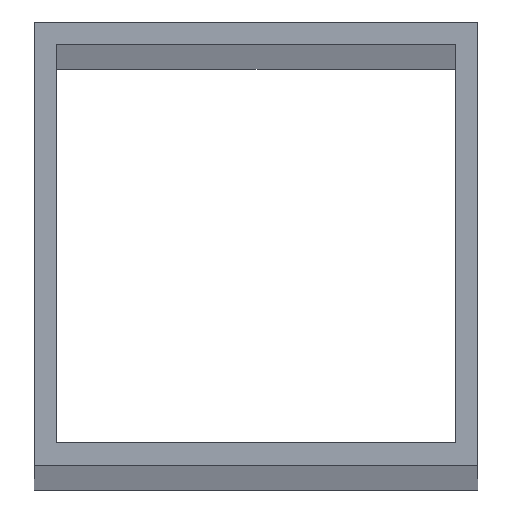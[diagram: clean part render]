
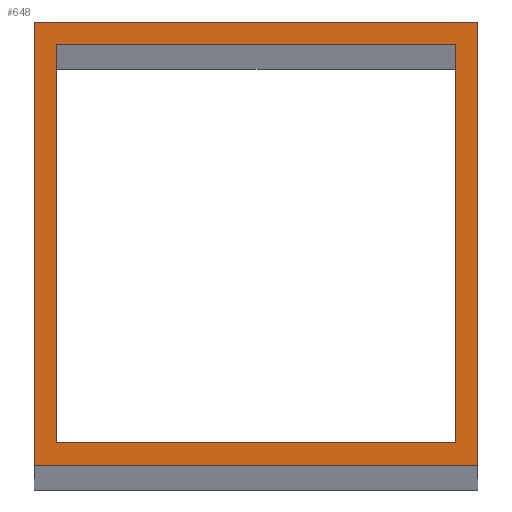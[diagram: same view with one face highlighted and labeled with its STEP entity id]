
A CAD part, top view. The second image highlights one B-rep face of the part: STEP entity #648.
In plain terms, the highlighted planar face has unit normal (0, 0, 1).
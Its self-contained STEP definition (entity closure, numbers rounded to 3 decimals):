
#24 = VERTEX_POINT('',#25);
#25 = CARTESIAN_POINT('',(-40.,-40.,2578.59));
#32 = PLANE('',#33);
#33 = AXIS2_PLACEMENT_3D('',#34,#35,#36);
#34 = CARTESIAN_POINT('',(-40.,-40.,0.));
#35 = DIRECTION('',(0.,1.,0.));
#36 = DIRECTION('',(1.,0.,0.));
#44 = PLANE('',#45);
#45 = AXIS2_PLACEMENT_3D('',#46,#47,#48);
#46 = CARTESIAN_POINT('',(-40.,40.,0.));
#47 = DIRECTION('',(1.,0.,-0.));
#48 = DIRECTION('',(0.,-1.,0.));
#56 = EDGE_CURVE('',#24,#57,#59,.T.);
#57 = VERTEX_POINT('',#58);
#58 = CARTESIAN_POINT('',(40.,-40.,2578.59));
#59 = SURFACE_CURVE('',#60,(#64,#71),.PCURVE_S1.);
#60 = LINE('',#61,#62);
#61 = CARTESIAN_POINT('',(-40.,-40.,2578.59));
#62 = VECTOR('',#63,1.);
#63 = DIRECTION('',(1.,0.,0.));
#64 = PCURVE('',#32,#65);
#65 = DEFINITIONAL_REPRESENTATION('',(#66),#70);
#66 = LINE('',#67,#68);
#67 = CARTESIAN_POINT('',(0.,-2578.59));
#68 = VECTOR('',#69,1.);
#69 = DIRECTION('',(1.,0.));
#70 = ( GEOMETRIC_REPRESENTATION_CONTEXT(2) 
PARAMETRIC_REPRESENTATION_CONTEXT() REPRESENTATION_CONTEXT('2D SPACE',''
  ) );
#71 = PCURVE('',#72,#77);
#72 = PLANE('',#73);
#73 = AXIS2_PLACEMENT_3D('',#74,#75,#76);
#74 = CARTESIAN_POINT('',(0.,0.,2578.59));
#75 = DIRECTION('',(0.,0.,1.));
#76 = DIRECTION('',(1.,0.,-0.));
#77 = DEFINITIONAL_REPRESENTATION('',(#78),#82);
#78 = LINE('',#79,#80);
#79 = CARTESIAN_POINT('',(-40.,-40.));
#80 = VECTOR('',#81,1.);
#81 = DIRECTION('',(1.,0.));
#82 = ( GEOMETRIC_REPRESENTATION_CONTEXT(2) 
PARAMETRIC_REPRESENTATION_CONTEXT() REPRESENTATION_CONTEXT('2D SPACE',''
  ) );
#100 = PLANE('',#101);
#101 = AXIS2_PLACEMENT_3D('',#102,#103,#104);
#102 = CARTESIAN_POINT('',(40.,-40.,0.));
#103 = DIRECTION('',(-1.,0.,0.));
#104 = DIRECTION('',(0.,1.,0.));
#142 = EDGE_CURVE('',#57,#143,#145,.T.);
#143 = VERTEX_POINT('',#144);
#144 = CARTESIAN_POINT('',(40.,40.,2578.59));
#145 = SURFACE_CURVE('',#146,(#150,#157),.PCURVE_S1.);
#146 = LINE('',#147,#148);
#147 = CARTESIAN_POINT('',(40.,-40.,2578.59));
#148 = VECTOR('',#149,1.);
#149 = DIRECTION('',(0.,1.,0.));
#150 = PCURVE('',#100,#151);
#151 = DEFINITIONAL_REPRESENTATION('',(#152),#156);
#152 = LINE('',#153,#154);
#153 = CARTESIAN_POINT('',(0.,-2578.59));
#154 = VECTOR('',#155,1.);
#155 = DIRECTION('',(1.,0.));
#156 = ( GEOMETRIC_REPRESENTATION_CONTEXT(2) 
PARAMETRIC_REPRESENTATION_CONTEXT() REPRESENTATION_CONTEXT('2D SPACE',''
  ) );
#157 = PCURVE('',#72,#158);
#158 = DEFINITIONAL_REPRESENTATION('',(#159),#163);
#159 = LINE('',#160,#161);
#160 = CARTESIAN_POINT('',(40.,-40.));
#161 = VECTOR('',#162,1.);
#162 = DIRECTION('',(0.,1.));
#163 = ( GEOMETRIC_REPRESENTATION_CONTEXT(2) 
PARAMETRIC_REPRESENTATION_CONTEXT() REPRESENTATION_CONTEXT('2D SPACE',''
  ) );
#181 = PLANE('',#182);
#182 = AXIS2_PLACEMENT_3D('',#183,#184,#185);
#183 = CARTESIAN_POINT('',(40.,40.,0.));
#184 = DIRECTION('',(0.,-1.,0.));
#185 = DIRECTION('',(-1.,0.,0.));
#218 = EDGE_CURVE('',#143,#219,#221,.T.);
#219 = VERTEX_POINT('',#220);
#220 = CARTESIAN_POINT('',(-40.,40.,2578.59));
#221 = SURFACE_CURVE('',#222,(#226,#233),.PCURVE_S1.);
#222 = LINE('',#223,#224);
#223 = CARTESIAN_POINT('',(40.,40.,2578.59));
#224 = VECTOR('',#225,1.);
#225 = DIRECTION('',(-1.,0.,0.));
#226 = PCURVE('',#181,#227);
#227 = DEFINITIONAL_REPRESENTATION('',(#228),#232);
#228 = LINE('',#229,#230);
#229 = CARTESIAN_POINT('',(0.,-2578.59));
#230 = VECTOR('',#231,1.);
#231 = DIRECTION('',(1.,0.));
#232 = ( GEOMETRIC_REPRESENTATION_CONTEXT(2) 
PARAMETRIC_REPRESENTATION_CONTEXT() REPRESENTATION_CONTEXT('2D SPACE',''
  ) );
#233 = PCURVE('',#72,#234);
#234 = DEFINITIONAL_REPRESENTATION('',(#235),#239);
#235 = LINE('',#236,#237);
#236 = CARTESIAN_POINT('',(40.,40.));
#237 = VECTOR('',#238,1.);
#238 = DIRECTION('',(-1.,0.));
#239 = ( GEOMETRIC_REPRESENTATION_CONTEXT(2) 
PARAMETRIC_REPRESENTATION_CONTEXT() REPRESENTATION_CONTEXT('2D SPACE',''
  ) );
#289 = EDGE_CURVE('',#219,#24,#290,.T.);
#290 = SURFACE_CURVE('',#291,(#295,#302),.PCURVE_S1.);
#291 = LINE('',#292,#293);
#292 = CARTESIAN_POINT('',(-40.,40.,2578.59));
#293 = VECTOR('',#294,1.);
#294 = DIRECTION('',(0.,-1.,0.));
#295 = PCURVE('',#44,#296);
#296 = DEFINITIONAL_REPRESENTATION('',(#297),#301);
#297 = LINE('',#298,#299);
#298 = CARTESIAN_POINT('',(0.,-2578.59));
#299 = VECTOR('',#300,1.);
#300 = DIRECTION('',(1.,0.));
#301 = ( GEOMETRIC_REPRESENTATION_CONTEXT(2) 
PARAMETRIC_REPRESENTATION_CONTEXT() REPRESENTATION_CONTEXT('2D SPACE',''
  ) );
#302 = PCURVE('',#72,#303);
#303 = DEFINITIONAL_REPRESENTATION('',(#304),#308);
#304 = LINE('',#305,#306);
#305 = CARTESIAN_POINT('',(-40.,40.));
#306 = VECTOR('',#307,1.);
#307 = DIRECTION('',(0.,-1.));
#308 = ( GEOMETRIC_REPRESENTATION_CONTEXT(2) 
PARAMETRIC_REPRESENTATION_CONTEXT() REPRESENTATION_CONTEXT('2D SPACE',''
  ) );
#338 = VERTEX_POINT('',#339);
#339 = CARTESIAN_POINT('',(-36.,-36.,2578.59));
#346 = PLANE('',#347);
#347 = AXIS2_PLACEMENT_3D('',#348,#349,#350);
#348 = CARTESIAN_POINT('',(-36.,-36.,0.));
#349 = DIRECTION('',(0.,1.,0.));
#350 = DIRECTION('',(1.,0.,0.));
#358 = PLANE('',#359);
#359 = AXIS2_PLACEMENT_3D('',#360,#361,#362);
#360 = CARTESIAN_POINT('',(-36.,36.,0.));
#361 = DIRECTION('',(1.,0.,-0.));
#362 = DIRECTION('',(0.,-1.,0.));
#370 = EDGE_CURVE('',#338,#371,#373,.T.);
#371 = VERTEX_POINT('',#372);
#372 = CARTESIAN_POINT('',(36.,-36.,2578.59));
#373 = SURFACE_CURVE('',#374,(#378,#385),.PCURVE_S1.);
#374 = LINE('',#375,#376);
#375 = CARTESIAN_POINT('',(-36.,-36.,2578.59));
#376 = VECTOR('',#377,1.);
#377 = DIRECTION('',(1.,0.,0.));
#378 = PCURVE('',#346,#379);
#379 = DEFINITIONAL_REPRESENTATION('',(#380),#384);
#380 = LINE('',#381,#382);
#381 = CARTESIAN_POINT('',(0.,-2578.59));
#382 = VECTOR('',#383,1.);
#383 = DIRECTION('',(1.,0.));
#384 = ( GEOMETRIC_REPRESENTATION_CONTEXT(2) 
PARAMETRIC_REPRESENTATION_CONTEXT() REPRESENTATION_CONTEXT('2D SPACE',''
  ) );
#385 = PCURVE('',#72,#386);
#386 = DEFINITIONAL_REPRESENTATION('',(#387),#391);
#387 = LINE('',#388,#389);
#388 = CARTESIAN_POINT('',(-36.,-36.));
#389 = VECTOR('',#390,1.);
#390 = DIRECTION('',(1.,0.));
#391 = ( GEOMETRIC_REPRESENTATION_CONTEXT(2) 
PARAMETRIC_REPRESENTATION_CONTEXT() REPRESENTATION_CONTEXT('2D SPACE',''
  ) );
#409 = PLANE('',#410);
#410 = AXIS2_PLACEMENT_3D('',#411,#412,#413);
#411 = CARTESIAN_POINT('',(36.,-36.,0.));
#412 = DIRECTION('',(-1.,0.,0.));
#413 = DIRECTION('',(0.,1.,0.));
#446 = EDGE_CURVE('',#371,#447,#449,.T.);
#447 = VERTEX_POINT('',#448);
#448 = CARTESIAN_POINT('',(36.,36.,2578.59));
#449 = SURFACE_CURVE('',#450,(#454,#461),.PCURVE_S1.);
#450 = LINE('',#451,#452);
#451 = CARTESIAN_POINT('',(36.,-36.,2578.59));
#452 = VECTOR('',#453,1.);
#453 = DIRECTION('',(0.,1.,0.));
#454 = PCURVE('',#409,#455);
#455 = DEFINITIONAL_REPRESENTATION('',(#456),#460);
#456 = LINE('',#457,#458);
#457 = CARTESIAN_POINT('',(0.,-2578.59));
#458 = VECTOR('',#459,1.);
#459 = DIRECTION('',(1.,0.));
#460 = ( GEOMETRIC_REPRESENTATION_CONTEXT(2) 
PARAMETRIC_REPRESENTATION_CONTEXT() REPRESENTATION_CONTEXT('2D SPACE',''
  ) );
#461 = PCURVE('',#72,#462);
#462 = DEFINITIONAL_REPRESENTATION('',(#463),#467);
#463 = LINE('',#464,#465);
#464 = CARTESIAN_POINT('',(36.,-36.));
#465 = VECTOR('',#466,1.);
#466 = DIRECTION('',(0.,1.));
#467 = ( GEOMETRIC_REPRESENTATION_CONTEXT(2) 
PARAMETRIC_REPRESENTATION_CONTEXT() REPRESENTATION_CONTEXT('2D SPACE',''
  ) );
#485 = PLANE('',#486);
#486 = AXIS2_PLACEMENT_3D('',#487,#488,#489);
#487 = CARTESIAN_POINT('',(36.,36.,0.));
#488 = DIRECTION('',(0.,-1.,0.));
#489 = DIRECTION('',(-1.,0.,0.));
#522 = EDGE_CURVE('',#447,#523,#525,.T.);
#523 = VERTEX_POINT('',#524);
#524 = CARTESIAN_POINT('',(-36.,36.,2578.59));
#525 = SURFACE_CURVE('',#526,(#530,#537),.PCURVE_S1.);
#526 = LINE('',#527,#528);
#527 = CARTESIAN_POINT('',(36.,36.,2578.59));
#528 = VECTOR('',#529,1.);
#529 = DIRECTION('',(-1.,0.,0.));
#530 = PCURVE('',#485,#531);
#531 = DEFINITIONAL_REPRESENTATION('',(#532),#536);
#532 = LINE('',#533,#534);
#533 = CARTESIAN_POINT('',(0.,-2578.59));
#534 = VECTOR('',#535,1.);
#535 = DIRECTION('',(1.,0.));
#536 = ( GEOMETRIC_REPRESENTATION_CONTEXT(2) 
PARAMETRIC_REPRESENTATION_CONTEXT() REPRESENTATION_CONTEXT('2D SPACE',''
  ) );
#537 = PCURVE('',#72,#538);
#538 = DEFINITIONAL_REPRESENTATION('',(#539),#543);
#539 = LINE('',#540,#541);
#540 = CARTESIAN_POINT('',(36.,36.));
#541 = VECTOR('',#542,1.);
#542 = DIRECTION('',(-1.,0.));
#543 = ( GEOMETRIC_REPRESENTATION_CONTEXT(2) 
PARAMETRIC_REPRESENTATION_CONTEXT() REPRESENTATION_CONTEXT('2D SPACE',''
  ) );
#593 = EDGE_CURVE('',#523,#338,#594,.T.);
#594 = SURFACE_CURVE('',#595,(#599,#606),.PCURVE_S1.);
#595 = LINE('',#596,#597);
#596 = CARTESIAN_POINT('',(-36.,36.,2578.59));
#597 = VECTOR('',#598,1.);
#598 = DIRECTION('',(0.,-1.,0.));
#599 = PCURVE('',#358,#600);
#600 = DEFINITIONAL_REPRESENTATION('',(#601),#605);
#601 = LINE('',#602,#603);
#602 = CARTESIAN_POINT('',(0.,-2578.59));
#603 = VECTOR('',#604,1.);
#604 = DIRECTION('',(1.,0.));
#605 = ( GEOMETRIC_REPRESENTATION_CONTEXT(2) 
PARAMETRIC_REPRESENTATION_CONTEXT() REPRESENTATION_CONTEXT('2D SPACE',''
  ) );
#606 = PCURVE('',#72,#607);
#607 = DEFINITIONAL_REPRESENTATION('',(#608),#612);
#608 = LINE('',#609,#610);
#609 = CARTESIAN_POINT('',(-36.,36.));
#610 = VECTOR('',#611,1.);
#611 = DIRECTION('',(0.,-1.));
#612 = ( GEOMETRIC_REPRESENTATION_CONTEXT(2) 
PARAMETRIC_REPRESENTATION_CONTEXT() REPRESENTATION_CONTEXT('2D SPACE',''
  ) );
#648 = ADVANCED_FACE('',(#649,#655),#72,.T.);
#649 = FACE_BOUND('',#650,.T.);
#650 = EDGE_LOOP('',(#651,#652,#653,#654));
#651 = ORIENTED_EDGE('',*,*,#56,.T.);
#652 = ORIENTED_EDGE('',*,*,#142,.T.);
#653 = ORIENTED_EDGE('',*,*,#218,.T.);
#654 = ORIENTED_EDGE('',*,*,#289,.T.);
#655 = FACE_BOUND('',#656,.F.);
#656 = EDGE_LOOP('',(#657,#658,#659,#660));
#657 = ORIENTED_EDGE('',*,*,#370,.T.);
#658 = ORIENTED_EDGE('',*,*,#446,.T.);
#659 = ORIENTED_EDGE('',*,*,#522,.T.);
#660 = ORIENTED_EDGE('',*,*,#593,.T.);
